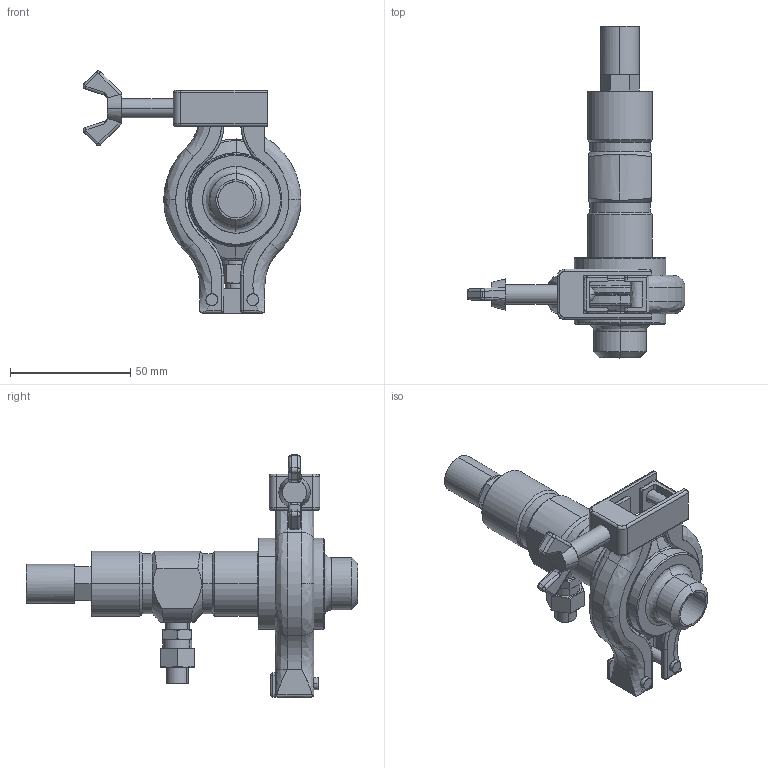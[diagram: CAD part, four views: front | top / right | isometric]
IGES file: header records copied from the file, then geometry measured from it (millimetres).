
Start section: SolidWorks IGES file using analytic representation for surfaces
Global section: file name: V:\WORK\08133\HP 寸法図\piston\EPV12A-F\test_G97000A-000_defeature.IGS,15; native system: HSolidWorks 2018; preprocessor: SolidWorks 2018; author: n-udagawa; date: 230117.115010; units: millimetre
Bounding box: 90.5 x 137.8 x 100.52 mm (x, y, z)
Surface area: 33781.4 mm2 (no closed solid volume)
Topology: 0 solids, 0 shells, 396 faces, 6372 edges, 7391 vertices
Faces by surface type: revolution 205, bspline 191
